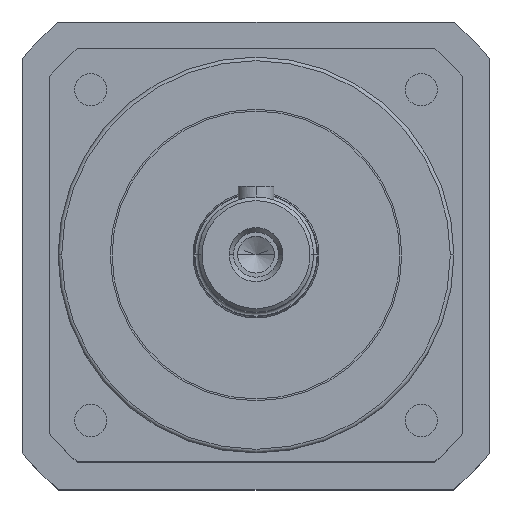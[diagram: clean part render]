
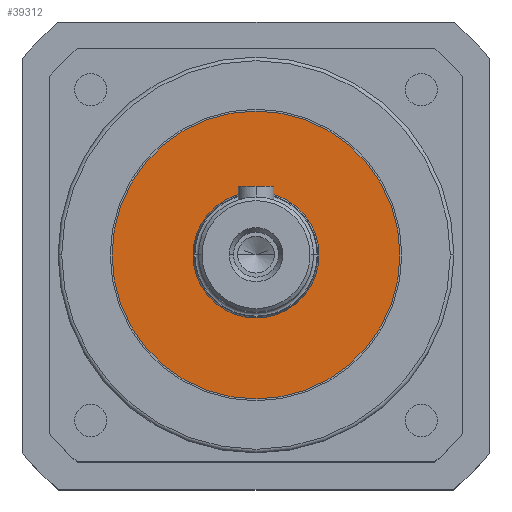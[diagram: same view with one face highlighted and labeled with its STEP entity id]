
A CAD part, top view. The second image highlights one B-rep face of the part: STEP entity #39312.
In plain terms, the highlighted planar face has unit normal (0, 0, 1).
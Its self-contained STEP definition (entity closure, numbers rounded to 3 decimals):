
#242 = CARTESIAN_POINT ( 'NONE',  ( 2.612, 1.959, 211.364 ) ) ;
#1872 = CARTESIAN_POINT ( 'NONE',  ( 2.612, 1.959, 211.364 ) ) ;
#4847 = DIRECTION ( 'NONE',  ( 1., 0., 0. ) ) ;
#4924 = AXIS2_PLACEMENT_3D ( 'NONE', #20199, #25924, #7122 ) ;
#5856 = EDGE_CURVE ( 'NONE', #35356, #28402, #50749, .T. ) ;
#6735 = FACE_BOUND ( 'NONE', #18841, .T. ) ;
#7122 = DIRECTION ( 'NONE',  ( 1., 0., 0. ) ) ;
#9737 = CARTESIAN_POINT ( 'NONE',  ( -14.888, 1.959, 211.364 ) ) ;
#11492 = EDGE_CURVE ( 'NONE', #28402, #35356, #44440, .T. ) ;
#13641 = DIRECTION ( 'NONE',  ( 1., 0., 0. ) ) ;
#13993 = AXIS2_PLACEMENT_3D ( 'NONE', #60066, #18824, #4847 ) ;
#14637 = EDGE_CURVE ( 'NONE', #40874, #34260, #57255, .T. ) ;
#14960 = CARTESIAN_POINT ( 'NONE',  ( 42.612, 1.959, 211.364 ) ) ;
#17834 = AXIS2_PLACEMENT_3D ( 'NONE', #22974, #41433, #18429 ) ;
#18429 = DIRECTION ( 'NONE',  ( 1., 0., 0. ) ) ;
#18824 = DIRECTION ( 'NONE',  ( 0., 0., 1. ) ) ;
#18841 = EDGE_LOOP ( 'NONE', ( #44327, #56715 ) ) ;
#20199 = CARTESIAN_POINT ( 'NONE',  ( 2.612, 1.959, 211.364 ) ) ;
#21218 = AXIS2_PLACEMENT_3D ( 'NONE', #242, #55161, #13641 ) ;
#22974 = CARTESIAN_POINT ( 'NONE',  ( 2.612, 1.959, 211.364 ) ) ;
#25924 = DIRECTION ( 'NONE',  ( 0., 0., 1. ) ) ;
#28402 = VERTEX_POINT ( 'NONE', #9737 ) ;
#29956 = CARTESIAN_POINT ( 'NONE',  ( -37.388, 1.959, 211.364 ) ) ;
#33684 = EDGE_CURVE ( 'NONE', #34260, #40874, #48825, .T. ) ;
#34260 = VERTEX_POINT ( 'NONE', #14960 ) ;
#35356 = VERTEX_POINT ( 'NONE', #44812 ) ;
#37511 = ORIENTED_EDGE ( 'NONE', *, *, #14637, .T. ) ;
#37614 = EDGE_LOOP ( 'NONE', ( #50455, #37511 ) ) ;
#39312 = ADVANCED_FACE ( 'NONE', ( #6735, #44344 ), #58001, .T. ) ;
#40874 = VERTEX_POINT ( 'NONE', #29956 ) ;
#41433 = DIRECTION ( 'NONE',  ( 0., 0., 1. ) ) ;
#43745 = DIRECTION ( 'NONE',  ( 0., 0., 1. ) ) ;
#44327 = ORIENTED_EDGE ( 'NONE', *, *, #11492, .F. ) ;
#44344 = FACE_OUTER_BOUND ( 'NONE', #37614, .T. ) ;
#44440 = CIRCLE ( 'NONE', #21218, 17.5 ) ;
#44812 = CARTESIAN_POINT ( 'NONE',  ( 20.112, 1.959, 211.364 ) ) ;
#48825 = CIRCLE ( 'NONE', #13993, 40. ) ;
#50455 = ORIENTED_EDGE ( 'NONE', *, *, #33684, .T. ) ;
#50749 = CIRCLE ( 'NONE', #17834, 17.5 ) ;
#51124 = AXIS2_PLACEMENT_3D ( 'NONE', #1872, #43745, #53457 ) ;
#53457 = DIRECTION ( 'NONE',  ( 1., 0., 0. ) ) ;
#55161 = DIRECTION ( 'NONE',  ( 0., 0., 1. ) ) ;
#56715 = ORIENTED_EDGE ( 'NONE', *, *, #5856, .F. ) ;
#57255 = CIRCLE ( 'NONE', #4924, 40. ) ;
#58001 = PLANE ( 'NONE',  #51124 ) ;
#60066 = CARTESIAN_POINT ( 'NONE',  ( 2.612, 1.959, 211.364 ) ) ;
